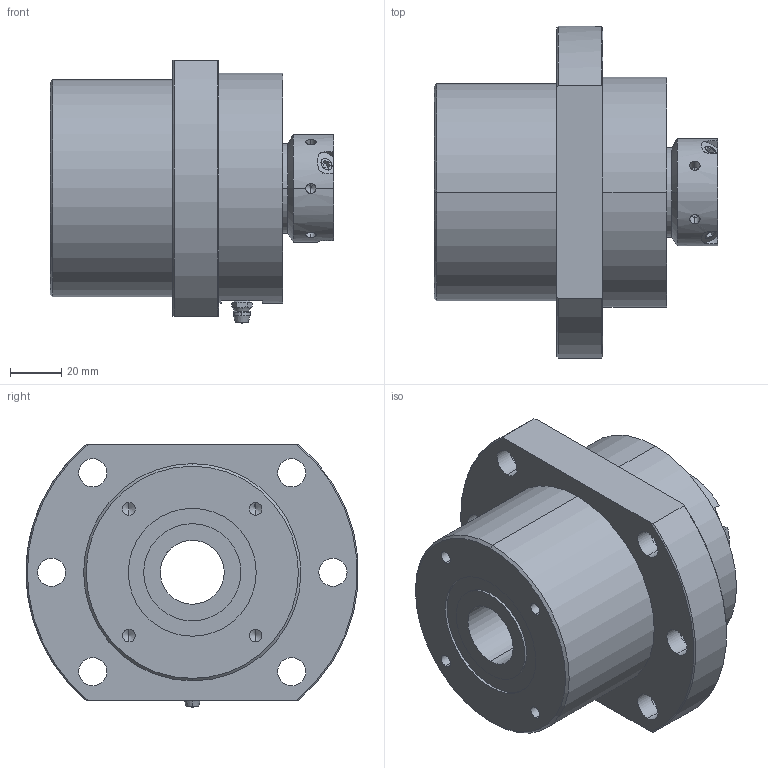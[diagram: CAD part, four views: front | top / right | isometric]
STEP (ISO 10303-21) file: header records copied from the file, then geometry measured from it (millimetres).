
FILE_DESCRIPTION (( 'STEP AP203' ), '1' );
FILE_NAME ('SWBK25G-DFD.STEP', '2018-09-15T04:54:35', ( '' ), ( '' ), 'SwSTEP 2.0', 'SolidWorks 2015', '' );
FILE_SCHEMA (( 'CONFIG_CONTROL_DESIGN' ));
Length unit declared in the file: millimetre
Products named in the file (1): SWBK25G-DFD
Bounding box: 111 x 129.79 x 102.9 mm (x, y, z)
Volume: 550957.9 mm3; surface area: 144203.4 mm2
Topology: 37 solids, 49 shells, 746 faces, 1888 edges, 1178 vertices
Faces by surface type: cylinder 244, plane 207, cone 129, sphere 82, torus 48, bspline 36
Entity records: 28475 total; most frequent: CARTESIAN_POINT 11359, DIRECTION 3805, ORIENTED_EDGE 3358, EDGE_CURVE 1679, AXIS2_PLACEMENT_3D 1612, VERTEX_POINT 1096, CIRCLE 901, EDGE_LOOP 855
